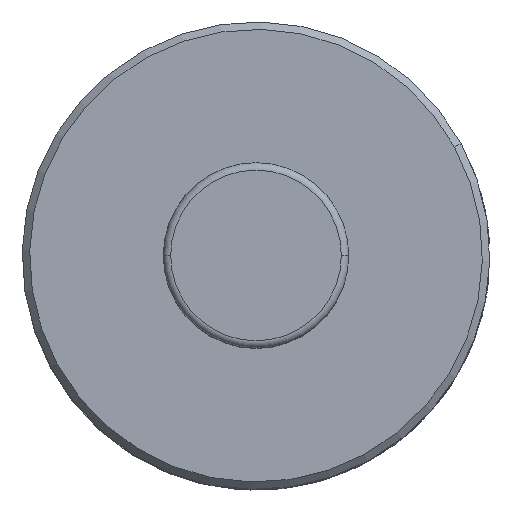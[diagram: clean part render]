
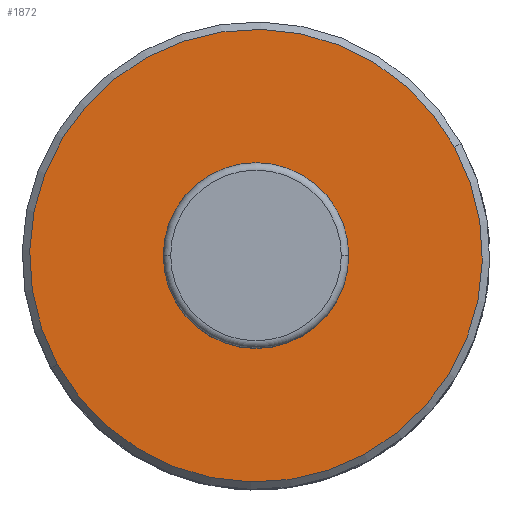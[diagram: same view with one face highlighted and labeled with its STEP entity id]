
A CAD part, top view. The second image highlights one B-rep face of the part: STEP entity #1872.
In plain terms, the highlighted planar face has unit normal (0, 0, 1).
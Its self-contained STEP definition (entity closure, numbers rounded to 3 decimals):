
#1827 = VERTEX_POINT('',#1828);
#1828 = CARTESIAN_POINT('',(-26.766,-14.622,59.));
#1834 = EDGE_CURVE('',#1827,#1835,#1837,.T.);
#1835 = VERTEX_POINT('',#1836);
#1836 = CARTESIAN_POINT('',(26.766,14.622,59.));
#1837 = CIRCLE('',#1838,30.5);
#1838 = AXIS2_PLACEMENT_3D('',#1839,#1840,#1841);
#1839 = CARTESIAN_POINT('',(0.,0.,59.));
#1840 = DIRECTION('',(0.,0.,-1.));
#1841 = DIRECTION('',(-1.,0.,0.));
#1859 = EDGE_CURVE('',#1835,#1827,#1860,.T.);
#1860 = CIRCLE('',#1861,30.5);
#1861 = AXIS2_PLACEMENT_3D('',#1862,#1863,#1864);
#1862 = CARTESIAN_POINT('',(0.,0.,59.));
#1863 = DIRECTION('',(0.,0.,-1.));
#1864 = DIRECTION('',(-1.,0.,0.));
#1872 = ADVANCED_FACE('',(#1873,#1877),#1897,.T.);
#1873 = FACE_BOUND('',#1874,.T.);
#1874 = EDGE_LOOP('',(#1875,#1876));
#1875 = ORIENTED_EDGE('',*,*,#1859,.F.);
#1876 = ORIENTED_EDGE('',*,*,#1834,.F.);
#1877 = FACE_BOUND('',#1878,.T.);
#1878 = EDGE_LOOP('',(#1879,#1890));
#1879 = ORIENTED_EDGE('',*,*,#1880,.F.);
#1880 = EDGE_CURVE('',#1881,#1883,#1885,.T.);
#1881 = VERTEX_POINT('',#1882);
#1882 = CARTESIAN_POINT('',(12.5,0.,59.));
#1883 = VERTEX_POINT('',#1884);
#1884 = CARTESIAN_POINT('',(-12.5,0.,59.));
#1885 = CIRCLE('',#1886,12.5);
#1886 = AXIS2_PLACEMENT_3D('',#1887,#1888,#1889);
#1887 = CARTESIAN_POINT('',(0.,0.,59.));
#1888 = DIRECTION('',(0.,0.,1.));
#1889 = DIRECTION('',(1.,0.,0.));
#1890 = ORIENTED_EDGE('',*,*,#1891,.F.);
#1891 = EDGE_CURVE('',#1883,#1881,#1892,.T.);
#1892 = CIRCLE('',#1893,12.5);
#1893 = AXIS2_PLACEMENT_3D('',#1894,#1895,#1896);
#1894 = CARTESIAN_POINT('',(0.,0.,59.));
#1895 = DIRECTION('',(0.,0.,1.));
#1896 = DIRECTION('',(1.,0.,0.));
#1897 = PLANE('',#1898);
#1898 = AXIS2_PLACEMENT_3D('',#1899,#1900,#1901);
#1899 = CARTESIAN_POINT('',(30.5,0.,59.));
#1900 = DIRECTION('',(0.,0.,1.));
#1901 = DIRECTION('',(1.,0.,0.));
